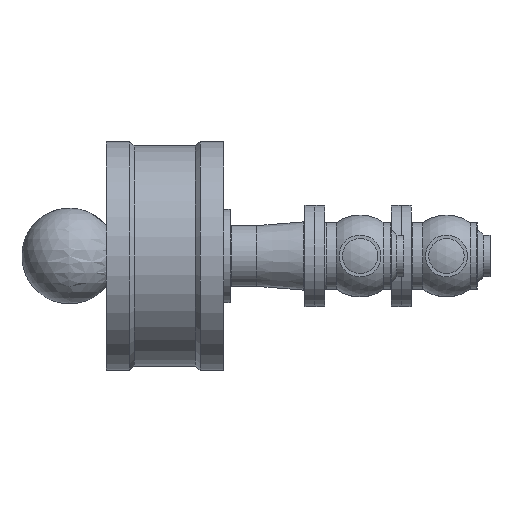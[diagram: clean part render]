
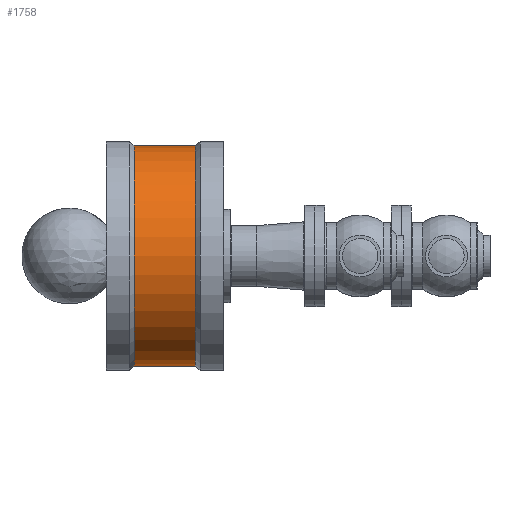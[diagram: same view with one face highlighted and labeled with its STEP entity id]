
A CAD part, left-side view. The second image highlights one B-rep face of the part: STEP entity #1758.
In plain terms, the highlighted cylindrical face has radius 167 mm (diameter 334 mm), a full revolution.
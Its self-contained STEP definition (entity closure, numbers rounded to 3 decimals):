
#194=LINE('',#3193,#241);
#241=VECTOR('',#2503,167.);
#284=CYLINDRICAL_SURFACE('',#2064,167.);
#368=FACE_OUTER_BOUND('',#476,.T.);
#476=EDGE_LOOP('',(#1337,#1338,#1339,#1340,#1341,#1342));
#627=CIRCLE('',#2062,167.);
#628=CIRCLE('',#2063,167.);
#629=CIRCLE('',#2065,167.);
#630=CIRCLE('',#2066,167.);
#823=VERTEX_POINT('',#3183);
#824=VERTEX_POINT('',#3184);
#825=VERTEX_POINT('',#3189);
#826=VERTEX_POINT('',#3190);
#1024=EDGE_CURVE('',#823,#824,#627,.T.);
#1025=EDGE_CURVE('',#824,#823,#628,.T.);
#1027=EDGE_CURVE('',#825,#826,#629,.T.);
#1028=EDGE_CURVE('',#826,#825,#630,.T.);
#1029=EDGE_CURVE('',#826,#824,#194,.T.);
#1337=ORIENTED_EDGE('',*,*,#1027,.F.);
#1338=ORIENTED_EDGE('',*,*,#1028,.F.);
#1339=ORIENTED_EDGE('',*,*,#1029,.T.);
#1340=ORIENTED_EDGE('',*,*,#1025,.T.);
#1341=ORIENTED_EDGE('',*,*,#1024,.T.);
#1342=ORIENTED_EDGE('',*,*,#1029,.F.);
#1758=ADVANCED_FACE('',(#368),#284,.T.);
#2062=AXIS2_PLACEMENT_3D('',#3185,#2492,#2493);
#2063=AXIS2_PLACEMENT_3D('',#3186,#2494,#2495);
#2064=AXIS2_PLACEMENT_3D('',#3188,#2497,#2498);
#2065=AXIS2_PLACEMENT_3D('',#3191,#2499,#2500);
#2066=AXIS2_PLACEMENT_3D('',#3192,#2501,#2502);
#2492=DIRECTION('center_axis',(-1.,0.,0.));
#2493=DIRECTION('ref_axis',(0.,0.,1.));
#2494=DIRECTION('center_axis',(-1.,0.,0.));
#2495=DIRECTION('ref_axis',(0.,0.,1.));
#2497=DIRECTION('center_axis',(-1.,0.,0.));
#2498=DIRECTION('ref_axis',(0.,0.,1.));
#2499=DIRECTION('center_axis',(-1.,0.,0.));
#2500=DIRECTION('ref_axis',(0.,0.,1.));
#2501=DIRECTION('center_axis',(-1.,0.,0.));
#2502=DIRECTION('ref_axis',(0.,0.,1.));
#2503=DIRECTION('',(1.,0.,0.));
#3183=CARTESIAN_POINT('',(-45.5,0.,167.));
#3184=CARTESIAN_POINT('',(-45.5,0.,-167.));
#3185=CARTESIAN_POINT('Origin',(-45.5,0.,0.));
#3186=CARTESIAN_POINT('Origin',(-45.5,0.,0.));
#3188=CARTESIAN_POINT('Origin',(-92.,0.,0.));
#3189=CARTESIAN_POINT('',(-138.5,0.,167.));
#3190=CARTESIAN_POINT('',(-138.5,0.,-167.));
#3191=CARTESIAN_POINT('Origin',(-138.5,0.,0.));
#3192=CARTESIAN_POINT('Origin',(-138.5,0.,0.));
#3193=CARTESIAN_POINT('',(-92.,0.,-167.));
